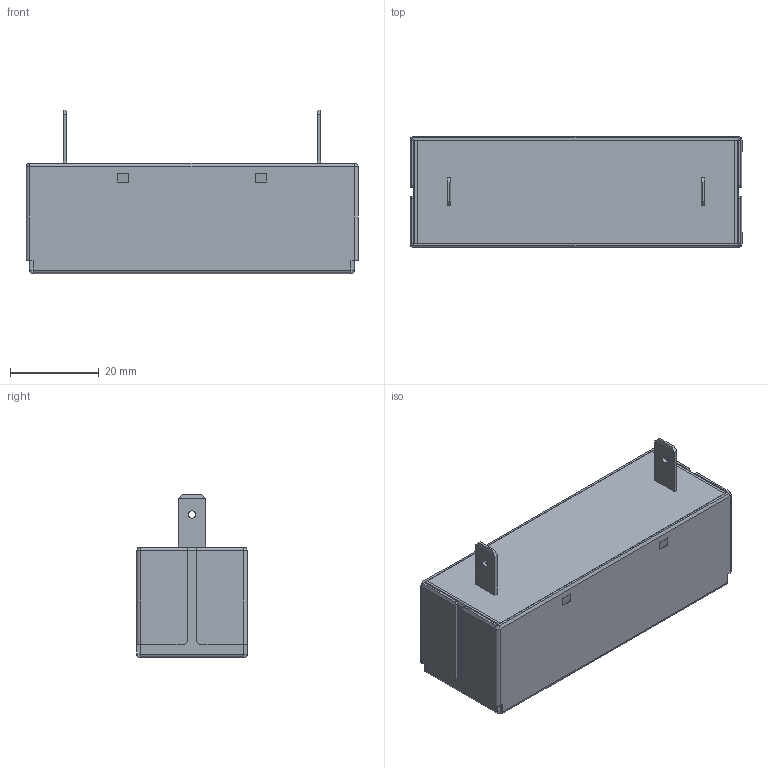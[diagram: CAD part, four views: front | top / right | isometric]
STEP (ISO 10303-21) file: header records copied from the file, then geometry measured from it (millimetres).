
FILE_DESCRIPTION (( 'STEP AP203' ), '1' );
FILE_NAME ('Assem3_70W_01_3Dpdf_20251006.STEP', '2025-10-06T07:28:58', ( '' ), ( '' ), 'SwSTEP 2.0', 'SolidWorks 2015', '' );
FILE_SCHEMA (( 'CONFIG_CONTROL_DESIGN' ));
Length unit declared in the file: millimetre
Products named in the file (3): bracket6_20231009; Assem3_70W_01_3Dpdf_20251006; Part1^Assem3_70W_01_20250411
Assembly tree (2 placements, depth 2):
  Assem3_70W_01_3Dpdf_20251006
    bracket6_20231009
    Part1^Assem3_70W_01_20250411
Bounding box: 75 x 25 x 36.9 mm (x, y, z)
Volume: 46721.6 mm3; surface area: 23611 mm2
Topology: 2 solids, 2 shells, 174 faces, 392 edges, 224 vertices
Faces by surface type: plane 142, cylinder 28, cone 4
Entity records: 4985 total; most frequent: CARTESIAN_POINT 807, DIRECTION 802, ORIENTED_EDGE 784, EDGE_CURVE 392, LINE 332, VECTOR 332, AXIS2_PLACEMENT_3D 235, VERTEX_POINT 224
